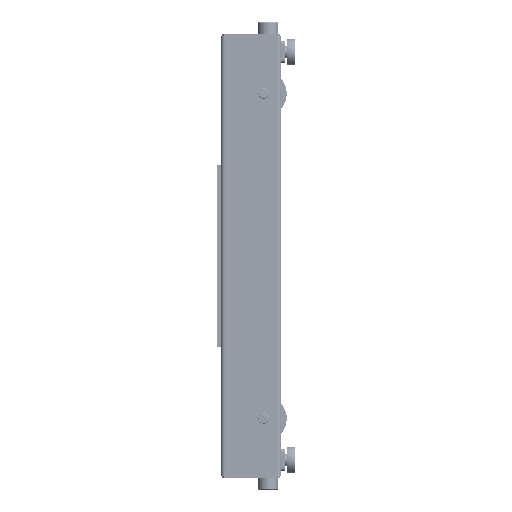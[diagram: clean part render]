
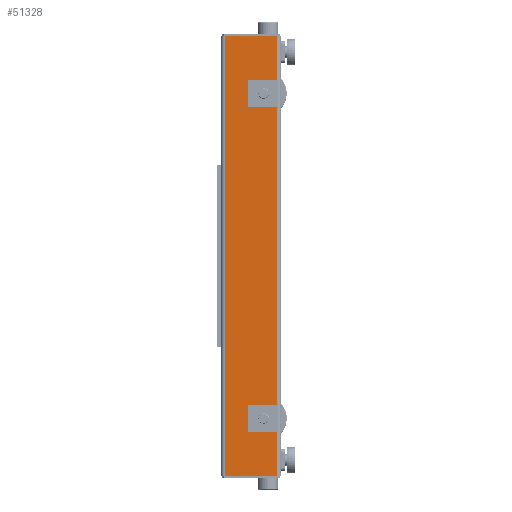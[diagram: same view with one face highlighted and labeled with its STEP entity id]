
A CAD part, left-side view. The second image highlights one B-rep face of the part: STEP entity #51328.
In plain terms, the highlighted planar face has unit normal (-1, 0, 0).
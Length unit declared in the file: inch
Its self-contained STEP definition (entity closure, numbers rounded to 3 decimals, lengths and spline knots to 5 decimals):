
#1290 = VECTOR ( 'NONE', #114731, 39.37008 ) ;
#2301 = EDGE_CURVE ( 'NONE', #42587, #28824, #38390, .T. ) ;
#2534 = DIRECTION ( 'NONE',  ( 0., 1., 0. ) ) ;
#5254 = CARTESIAN_POINT ( 'NONE',  ( 0., 0.5, -29.0625 ) ) ;
#7434 = ORIENTED_EDGE ( 'NONE', *, *, #2301, .F. ) ;
#8320 = AXIS2_PLACEMENT_3D ( 'NONE', #87011, #111557, #145870 ) ;
#9350 = VECTOR ( 'NONE', #68193, 39.37008 ) ;
#10061 = ORIENTED_EDGE ( 'NONE', *, *, #61723, .T. ) ;
#12242 = EDGE_CURVE ( 'NONE', #32834, #42587, #78985, .T. ) ;
#12245 = CARTESIAN_POINT ( 'NONE',  ( 0., 2.326, -21.5005 ) ) ;
#12247 = ORIENTED_EDGE ( 'NONE', *, *, #72450, .T. ) ;
#13577 = CIRCLE ( 'NONE', #80371, 0.69 ) ;
#15308 = DIRECTION ( 'NONE',  ( 0., 0., -1. ) ) ;
#23401 = LINE ( 'NONE', #112976, #9350 ) ;
#24943 = FACE_BOUND ( 'NONE', #27696, .T. ) ;
#26031 = DIRECTION ( 'NONE',  ( 0., 1., 0. ) ) ;
#27696 = EDGE_LOOP ( 'NONE', ( #12247, #58631 ) ) ;
#28824 = VERTEX_POINT ( 'NONE', #5254 ) ;
#31544 = ORIENTED_EDGE ( 'NONE', *, *, #51115, .T. ) ;
#32834 = VERTEX_POINT ( 'NONE', #88770 ) ;
#38390 = LINE ( 'NONE', #93659, #76241 ) ;
#38994 = DIRECTION ( 'NONE',  ( 1., 0., 0. ) ) ;
#40454 = CARTESIAN_POINT ( 'NONE',  ( 0., 2.326, 20.8095 ) ) ;
#42587 = VERTEX_POINT ( 'NONE', #75180 ) ;
#44368 = CARTESIAN_POINT ( 'NONE',  ( 0., 2.326, 22.1895 ) ) ;
#45913 = EDGE_LOOP ( 'NONE', ( #107422, #7434, #125839, #116062 ) ) ;
#47245 = DIRECTION ( 'NONE',  ( 1., 0., 0. ) ) ;
#47534 = CARTESIAN_POINT ( 'NONE',  ( 0., 0.5, 29.0625 ) ) ;
#49876 = EDGE_CURVE ( 'NONE', #32834, #135180, #93490, .T. ) ;
#51115 = EDGE_CURVE ( 'NONE', #127652, #108999, #120243, .T. ) ;
#51328 = ADVANCED_FACE ( 'NONE', ( #126412, #24943, #113036 ), #125687, .F. ) ;
#56960 = CARTESIAN_POINT ( 'NONE',  ( 0., 2.326, -22.1905 ) ) ;
#57786 = CARTESIAN_POINT ( 'NONE',  ( 0., 0.5, 29.0625 ) ) ;
#58007 = EDGE_CURVE ( 'NONE', #135180, #28824, #23401, .T. ) ;
#58631 = ORIENTED_EDGE ( 'NONE', *, *, #113377, .T. ) ;
#61723 = EDGE_CURVE ( 'NONE', #108999, #127652, #97740, .T. ) ;
#68193 = DIRECTION ( 'NONE',  ( 0., -1., 0. ) ) ;
#69708 = DIRECTION ( 'NONE',  ( 1., 0., 0. ) ) ;
#72421 = VECTOR ( 'NONE', #94244, 39.37008 ) ;
#72450 = EDGE_CURVE ( 'NONE', #119932, #117133, #13577, .T. ) ;
#75180 = CARTESIAN_POINT ( 'NONE',  ( 0., 0.5, 29.0625 ) ) ;
#76241 = VECTOR ( 'NONE', #15308, 39.37008 ) ;
#78985 = LINE ( 'NONE', #47534, #1290 ) ;
#79492 = DIRECTION ( 'NONE',  ( 0., 1., 0. ) ) ;
#80371 = AXIS2_PLACEMENT_3D ( 'NONE', #128245, #103676, #26031 ) ;
#83075 = CARTESIAN_POINT ( 'NONE',  ( 0., 2.326, 21.4995 ) ) ;
#87011 = CARTESIAN_POINT ( 'NONE',  ( 0., 2.326, -21.5005 ) ) ;
#88770 = CARTESIAN_POINT ( 'NONE',  ( 0., 7.5, 29.0625 ) ) ;
#89823 = CARTESIAN_POINT ( 'NONE',  ( 0., 7.5, -29.0625 ) ) ;
#93490 = LINE ( 'NONE', #141183, #72421 ) ;
#93659 = CARTESIAN_POINT ( 'NONE',  ( 0., 0.5, 29.0625 ) ) ;
#94134 = EDGE_LOOP ( 'NONE', ( #10061, #31544 ) ) ;
#94244 = DIRECTION ( 'NONE',  ( 0., 0., -1. ) ) ;
#97740 = CIRCLE ( 'NONE', #104953, 0.69 ) ;
#103676 = DIRECTION ( 'NONE',  ( 1., 0., 0. ) ) ;
#104953 = AXIS2_PLACEMENT_3D ( 'NONE', #12245, #47245, #2534 ) ;
#107422 = ORIENTED_EDGE ( 'NONE', *, *, #58007, .T. ) ;
#108999 = VERTEX_POINT ( 'NONE', #56960 ) ;
#111557 = DIRECTION ( 'NONE',  ( 1., 0., 0. ) ) ;
#112976 = CARTESIAN_POINT ( 'NONE',  ( 0., 0.5, -29.0625 ) ) ;
#113036 = FACE_OUTER_BOUND ( 'NONE', #45913, .T. ) ;
#113377 = EDGE_CURVE ( 'NONE', #117133, #119932, #145410, .T. ) ;
#114731 = DIRECTION ( 'NONE',  ( 0., -1., 0. ) ) ;
#116062 = ORIENTED_EDGE ( 'NONE', *, *, #49876, .T. ) ;
#117133 = VERTEX_POINT ( 'NONE', #44368 ) ;
#119932 = VERTEX_POINT ( 'NONE', #40454 ) ;
#120243 = CIRCLE ( 'NONE', #8320, 0.69 ) ;
#123995 = AXIS2_PLACEMENT_3D ( 'NONE', #83075, #38994, #139765 ) ;
#125687 = PLANE ( 'NONE',  #144096 ) ;
#125839 = ORIENTED_EDGE ( 'NONE', *, *, #12242, .F. ) ;
#126412 = FACE_BOUND ( 'NONE', #94134, .T. ) ;
#127652 = VERTEX_POINT ( 'NONE', #133720 ) ;
#128245 = CARTESIAN_POINT ( 'NONE',  ( 0., 2.326, 21.4995 ) ) ;
#133720 = CARTESIAN_POINT ( 'NONE',  ( 0., 2.326, -20.8105 ) ) ;
#135180 = VERTEX_POINT ( 'NONE', #89823 ) ;
#139765 = DIRECTION ( 'NONE',  ( 0., 1., 0. ) ) ;
#141183 = CARTESIAN_POINT ( 'NONE',  ( 0., 7.5, 29.0625 ) ) ;
#144096 = AXIS2_PLACEMENT_3D ( 'NONE', #57786, #69708, #79492 ) ;
#145410 = CIRCLE ( 'NONE', #123995, 0.69 ) ;
#145870 = DIRECTION ( 'NONE',  ( 0., 1., 0. ) ) ;
